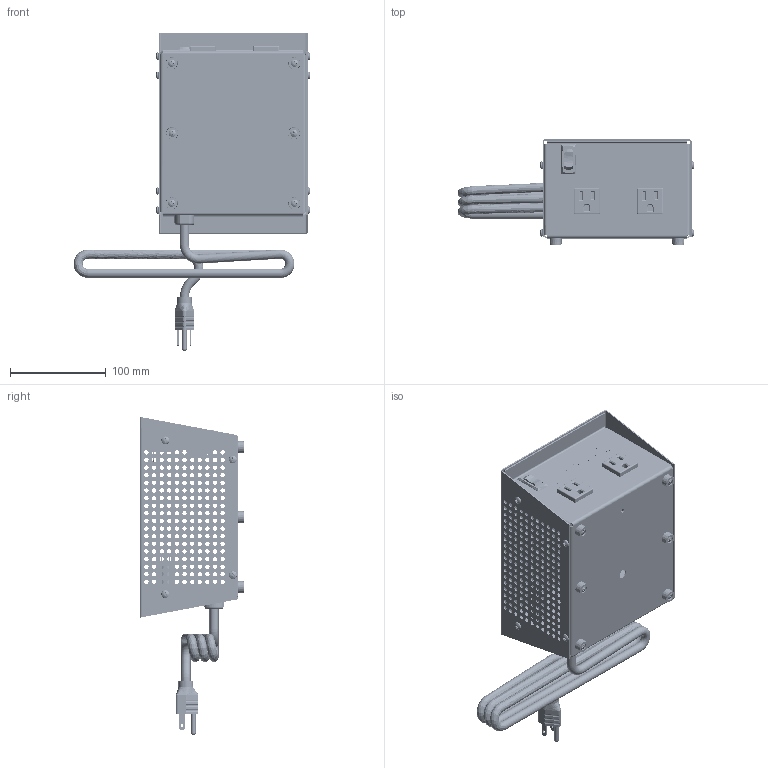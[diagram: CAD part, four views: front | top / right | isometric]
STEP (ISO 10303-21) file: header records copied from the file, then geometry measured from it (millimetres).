
FILE_DESCRIPTION(/* description */ (''),/* implementation_level */ '2;1');
FILE_NAME(/* name */ '178CT.stp',/* time_stamp */ '2026-06-02T15:10:02-04:00',/* author */ ('tfoster'),/* organization */ (''),/* preprocessor_version */ 'ST-DEVELOPER v20.1',/* originating_system */ 'Autodesk Inventor 2026',/* authorisation */ '');
FILE_SCHEMA (('AUTOMOTIVE_DESIGN { 1 0 10303 214 3 1 1 }'));
Products named in the file (11): 178ET; MTGR70760-2A; MTGR70763-1B; Receptacle; Power Switch Assembly; Power Switch; Power Switch pt; Cored 2; 5amp Reset Switch; Feet; 8-32 screw
Assembly tree (29 placements, depth 3):
  178ET
    MTGR70760-2A
    MTGR70763-1B
    Receptacle  x2
    Power Switch Assembly
      Power Switch
      Power Switch pt
    Cored 2
    5amp Reset Switch
    Feet  x6
    8-32 screw  x14
Bounding box: 246.94 x 109.4 x 332.13 mm (x, y, z)
Volume: 342656.4 mm3; surface area: 341133.2 mm2
Topology: 28 solids, 28 shells, 2429 faces, 6639 edges, 4368 vertices
Faces by surface type: plane 1057, cylinder 953, bspline 268, cone 92, torus 36, sphere 23
Full cylindrical faces by diameter (mm): 1 x1, 1.803 x3, 1.905 x2, 2.286 x1, 3 x2, 3.134 x98, 3.81 x8, 4.064 x6, 4.14 x1, 4.166 x84, 4.496 x396, 4.775 x1, 5.41 x4, 5.537 x8, 7.62 x6, 8.179 x14, 9.5 x5, 9.779 x1, 11 x1, 15.621 x1
Entity records: 56746 total; most frequent: CARTESIAN_POINT 14645, ORIENTED_EDGE 8560, DIRECTION 7618, EDGE_CURVE 4280, VERTEX_POINT 2818, LINE 2666, VECTOR 2666, EDGE_LOOP 2516
